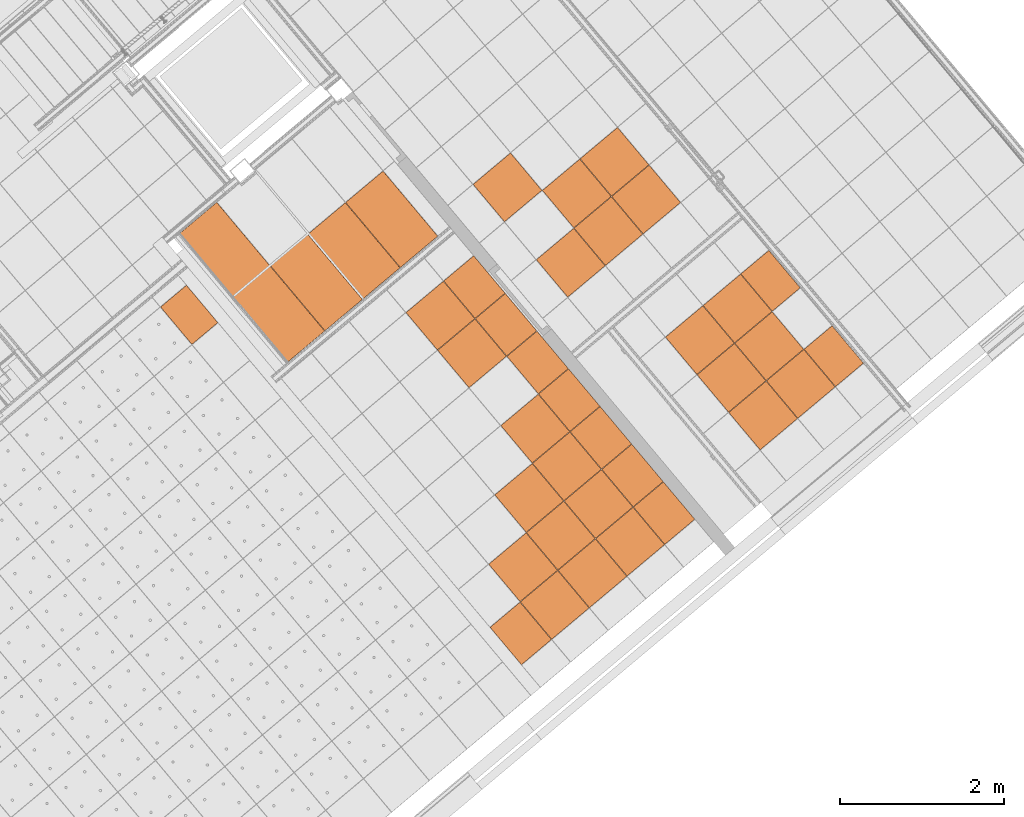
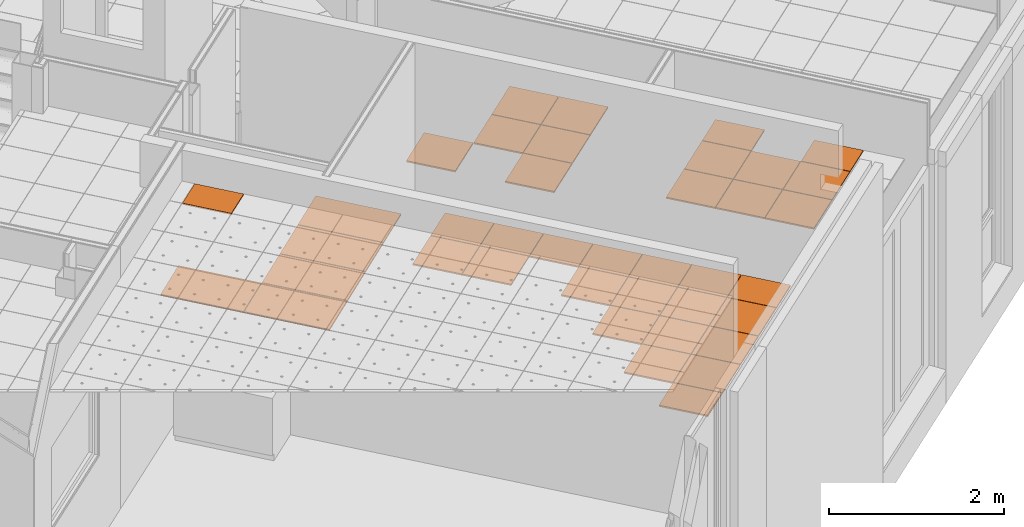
# One storey, part 194 of 338: 39 proxies, 5 elements without a shape of their own.
"""IFC2X3 building model written with IfcOpenShell, lengths in millimetres."""

from ifc_helpers import new_model, entity, si_unit, converted_unit, derived_unit, money_unit, direction, frame, origin_with_axes, place, context, subcontext, project, spatial, faceted_brep, source, transform, mapped, material, type_object, type_shapes, element, aggregate, save


model = new_model("IFC2X3")

# Units and contexts
model_context = context("Model", 3, precision=0.01, world=origin_with_axes(), true_north=direction((0.0, 1.0)))
plan_context = context("Plan", 3, precision=0.01, world=origin_with_axes(), true_north=direction((0.0, 1.0)))
body_context = subcontext(model_context, "Body", "Model", "MODEL_VIEW")
ifc_project = project(units=[si_unit("LENGTHUNIT", "METRE", prefix="MILLI"), si_unit("AREAUNIT", "SQUARE_METRE"), si_unit("VOLUMEUNIT", "CUBIC_METRE"), converted_unit("PLANEANGLEUNIT", "DEGREE", entity("IfcPlaneAngleMeasure", 0.0174532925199), si_unit("PLANEANGLEUNIT", "RADIAN"), dimensions=[0, 0, 0, 0, 0, 0, 0]), money_unit("EUR"), converted_unit("TIMEUNIT", "Year", entity("IfcTimeMeasure", 31556926.0), si_unit("TIMEUNIT", "SECOND"), dimensions=[0, 0, 1, 0, 0, 0, 0]), si_unit("MASSUNIT", "GRAM", prefix="KILO"), si_unit("THERMODYNAMICTEMPERATUREUNIT", "DEGREE_CELSIUS"), si_unit("LUMINOUSINTENSITYUNIT", "LUMEN"), si_unit("ENERGYUNIT", "JOULE", prefix="MEGA"), derived_unit("THERMALCONDUCTANCEUNIT", [(si_unit("POWERUNIT", "WATT"), 1), (si_unit("LENGTHUNIT", "METRE"), -1), (si_unit("THERMODYNAMICTEMPERATUREUNIT", "KELVIN"), -1)]), derived_unit("SPECIFICHEATCAPACITYUNIT", [(si_unit("ENERGYUNIT", "JOULE"), 1), (si_unit("MASSUNIT", "GRAM", prefix="KILO"), -1), (si_unit("THERMODYNAMICTEMPERATUREUNIT", "KELVIN"), -1)]), derived_unit("MASSDENSITYUNIT", [(si_unit("MASSUNIT", "GRAM", prefix="KILO"), 1), (si_unit("VOLUMEUNIT", "CUBIC_METRE"), -1)])], contexts=[model_context, plan_context])

# Site, building, storey
site_placement = place(None, origin_with_axes())
site = spatial("IfcSite", under=ifc_project, at=site_placement, Name="Fortuinstraat Woensdrecht", CompositionType="ELEMENT")
building_placement = place(site_placement, origin_with_axes())
building = spatial("IfcBuilding", under=site, at=building_placement, Name="IKC Fortuna", CompositionType="ELEMENT")
storey_placement = place(building_placement, origin_with_axes())
storey = spatial("IfcBuildingStorey", under=building, at=storey_placement, Name="00 begane grond", CompositionType="ELEMENT", Elevation=0.0)

# Covering, proxies
covering_type = type_object("IfcCoveringType", Name="Curtain Wall Type", PredefinedType="CEILING")
covering_1_placement = place(storey_placement, frame((23826.4460301, -4357.43121765, 2810.0), z_axis=(0.0, 0.0, 1.0), x_axis=(1.0, 0.0, 0.0)))
covering_1 = element("IfcCovering", 1, at=covering_1_placement, inside=storey, type_object=covering_type, Name="45_Plafondafwerking_P02", PredefinedType="CEILING")
ifc_material = material(Name="Gipsplaat")
building_element_proxy_type_1 = type_object("IfcBuildingElementProxyType", Name="Distinct Panel 600 x 600 x 20", PredefinedType="NOTDEFINED")
shared_shape_1 = source(origin_with_axes(), body_context, "Body", "Brep", [
    faceted_brep([(2.49999999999, 2.5, -10.0), (597.5, 2.49999999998, -10.0), (597.5, 2.49999999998, 10.0), (2.49999999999, 2.5, 10.0), (2.50000000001, 597.5, -10.0), (597.5, 597.5, -10.0), (597.5, 597.5, 10.0), (2.50000000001, 597.5, 10.0)], [[[0, 1, 2, 3]], [[0, 4, 5, 1]], [[1, 5, 6, 2]], [[3, 2, 6, 7]], [[4, 0, 3, 7]], [[5, 4, 7, 6]]]),
])
proxy_1_placement = place(covering_1_placement, frame((562.501063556, 2038.48375918, 0.0), z_axis=(0.0, 0.0, 1.0), x_axis=(1.0, 0.0, 0.0)))
proxy_1 = element("IfcBuildingElementProxy", 2, at=proxy_1_placement, type_object=building_element_proxy_type_1, material=ifc_material, Name="__Panel-D", context=body_context, shape_type="MappedRepresentation", body=[
    mapped(shared_shape_1, transform((36.9769427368, 422.649625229, 0.0), x_axis=(-0.766044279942, -0.642787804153, 0.0), y_axis=(0.642787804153, -0.766044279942, 0.0), z_axis=(0.0, 0.0, 1.0))),
])
proxy_2_placement = place(covering_1_placement, frame((1571.61134008, -1030.99444563, 0.0), z_axis=(0.0, 0.0, 1.0), x_axis=(1.0, 0.0, 0.0)))
proxy_2 = element("IfcBuildingElementProxy", 3, at=proxy_2_placement, type_object=building_element_proxy_type_1, material=ifc_material, Name="__Panel-D", context=body_context, shape_type="MappedRepresentation", body=[
    mapped(shared_shape_1, transform((36.9769427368, 422.649625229, 0.0), x_axis=(-0.766044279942, -0.642787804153, 0.0), y_axis=(0.642787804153, -0.766044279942, 0.0), z_axis=(0.0, 0.0, 1.0))),
])
proxy_3_placement = place(covering_1_placement, frame((1957.28402258, -1490.62101359, 0.0), z_axis=(0.0, 0.0, 1.0), x_axis=(1.0, 0.0, 0.0)))
proxy_3 = element("IfcBuildingElementProxy", 4, at=proxy_3_placement, type_object=building_element_proxy_type_1, material=ifc_material, Name="__Panel-D", context=body_context, shape_type="MappedRepresentation", body=[
    mapped(shared_shape_1, transform((36.9769427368, 422.649625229, 0.0), x_axis=(-0.766044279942, -0.642787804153, 0.0), y_axis=(0.642787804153, -0.766044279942, 0.0), z_axis=(0.0, 0.0, 1.0))),
])
proxy_4_placement = place(covering_1_placement, frame((2416.91059054, -1104.9483311, 0.0), z_axis=(0.0, 0.0, 1.0), x_axis=(1.0, 0.0, 0.0)))
proxy_4 = element("IfcBuildingElementProxy", 5, at=proxy_4_placement, type_object=building_element_proxy_type_1, material=ifc_material, Name="__Panel-D", context=body_context, shape_type="MappedRepresentation", body=[
    mapped(shared_shape_1, transform((36.9769427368, 422.649625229, 0.0), x_axis=(-0.766044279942, -0.642787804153, 0.0), y_axis=(0.642787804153, -0.766044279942, 0.0), z_axis=(0.0, 0.0, 1.0))),
])
proxy_5_placement = place(covering_1_placement, frame((2031.23790805, -645.321763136, 0.0), z_axis=(0.0, 0.0, 1.0), x_axis=(1.0, 0.0, 0.0)))
proxy_5 = element("IfcBuildingElementProxy", 6, at=proxy_5_placement, type_object=building_element_proxy_type_1, material=ifc_material, Name="__Panel-D", context=body_context, shape_type="MappedRepresentation", body=[
    mapped(shared_shape_1, transform((36.9769427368, 422.649625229, 0.0), x_axis=(-0.766044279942, -0.642787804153, 0.0), y_axis=(0.642787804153, -0.766044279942, 0.0), z_axis=(0.0, 0.0, 1.0))),
])
proxy_6_placement = place(covering_1_placement, frame((1645.56522556, -185.69519517, 0.0), z_axis=(0.0, 0.0, 1.0), x_axis=(1.0, 0.0, 0.0)))
proxy_6 = element("IfcBuildingElementProxy", 7, at=proxy_6_placement, type_object=building_element_proxy_type_1, material=ifc_material, Name="__Panel-D", context=body_context, shape_type="MappedRepresentation", body=[
    mapped(shared_shape_1, transform((36.9769427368, 422.649625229, 0.0), x_axis=(-0.766044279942, -0.642787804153, 0.0), y_axis=(0.642787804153, -0.766044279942, 0.0), z_axis=(0.0, 0.0, 1.0))),
])
proxy_7_placement = place(covering_1_placement, frame((1719.51911103, 659.604055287, 0.0), z_axis=(0.0, 0.0, 1.0), x_axis=(1.0, 0.0, 0.0)))
proxy_7 = element("IfcBuildingElementProxy", 8, at=proxy_7_placement, type_object=building_element_proxy_type_1, material=ifc_material, Name="__Panel-D", context=body_context, shape_type="MappedRepresentation", body=[
    mapped(shared_shape_1, transform((36.9769427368, 422.649625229, 0.0), x_axis=(-0.766044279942, -0.642787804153, 0.0), y_axis=(0.642787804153, -0.766044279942, 0.0), z_axis=(0.0, 0.0, 1.0))),
])
proxy_8_placement = place(covering_1_placement, frame((2105.19179352, 199.977487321, 0.0), z_axis=(0.0, 0.0, 1.0), x_axis=(1.0, 0.0, 0.0)))
proxy_8 = element("IfcBuildingElementProxy", 9, at=proxy_8_placement, type_object=building_element_proxy_type_1, material=ifc_material, Name="__Panel-D", context=body_context, shape_type="MappedRepresentation", body=[
    mapped(shared_shape_1, transform((36.9769427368, 422.649625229, 0.0), x_axis=(-0.766044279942, -0.642787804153, 0.0), y_axis=(0.642787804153, -0.766044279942, 0.0), z_axis=(0.0, 0.0, 1.0))),
])
proxy_9_placement = place(covering_1_placement, frame((2490.86447602, -259.649080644, 0.0), z_axis=(0.0, 0.0, 1.0), x_axis=(1.0, 0.0, 0.0)))
proxy_9 = element("IfcBuildingElementProxy", 10, at=proxy_9_placement, type_object=building_element_proxy_type_1, material=ifc_material, Name="__Panel-D", context=body_context, shape_type="MappedRepresentation", body=[
    mapped(shared_shape_1, transform((36.9769427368, 422.649625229, 0.0), x_axis=(-0.766044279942, -0.642787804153, 0.0), y_axis=(0.642787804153, -0.766044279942, 0.0), z_axis=(0.0, 0.0, 1.0))),
])
proxy_10_placement = place(covering_1_placement, frame((2876.53715851, -719.275648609, 0.0), z_axis=(0.0, 0.0, 1.0), x_axis=(1.0, 0.0, 0.0)))
proxy_10 = element("IfcBuildingElementProxy", 11, at=proxy_10_placement, type_object=building_element_proxy_type_1, material=ifc_material, Name="__Panel-D", context=body_context, shape_type="MappedRepresentation", body=[
    mapped(shared_shape_1, transform((36.9769427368, 422.649625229, 0.0), x_axis=(-0.766044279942, -0.642787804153, 0.0), y_axis=(0.642787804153, -0.766044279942, 0.0), z_axis=(0.0, 0.0, 1.0))),
])
shared_shape_2 = source(origin_with_axes(), body_context, "Body", "Brep", [
    faceted_brep([(2.5000069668, 2.4999963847, -10.0), (597.499995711, 2.50000275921, -10.0), (597.499995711, 2.50000275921, 10.0), (2.5000069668, 2.4999963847, 10.0), (2.50000214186, 597.499967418, -10.0), (597.499990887, 597.499973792, -10.0), (597.499990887, 597.499973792, 10.0), (2.50000214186, 597.499967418, 10.0)], [[[0, 1, 2, 3]], [[0, 4, 5, 1]], [[1, 5, 6, 2]], [[3, 2, 6, 7]], [[4, 0, 3, 7]], [[5, 4, 7, 6]]]),
])
proxy_11_placement = place(covering_1_placement, frame((948.173746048, 1578.85719122, 0.0), z_axis=(0.0, 0.0, 1.0), x_axis=(1.0, 0.0, 0.0)))
proxy_11 = element("IfcBuildingElementProxy", 12, at=proxy_11_placement, type_object=building_element_proxy_type_1, material=ifc_material, Name="__Panel-D", context=body_context, shape_type="MappedRepresentation", body=[
    mapped(shared_shape_2, transform((36.9769427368, 422.649625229, 0.0), x_axis=(-0.766044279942, -0.642787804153, 0.0), y_axis=(0.642787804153, -0.766044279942, 0.0), z_axis=(0.0, 0.0, 1.0))),
])

covering_2_placement = place(storey_placement, frame((27661.2988988, -1812.1109843, 2810.0), z_axis=(0.0, 0.0, 1.0), x_axis=(1.0, 0.0, 0.0)))
covering_2 = element("IfcCovering", 13, at=covering_2_placement, inside=storey, type_object=covering_type, Name="45_Plafondafwerking_P02 gec", PredefinedType="CEILING")
shared_shape_3 = source(origin_with_axes(), body_context, "Body", "Brep", [
    faceted_brep([(-597.499994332, 2.50000201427, -10.0), (-597.499994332, 2.50000201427, 10.0), (-597.499997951, 597.499994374, 10.0), (-597.499997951, 597.499994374, -10.0), (-2.50001005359, 2.49999600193, -10.0), (-2.50001005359, 2.49999600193, 10.0), (-2.49999596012, 597.499989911, 10.0), (-2.49999596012, 597.499989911, -10.0)], [[[0, 1, 2, 3]], [[4, 5, 1, 0]], [[1, 5, 6, 2]], [[3, 2, 6, 7]], [[0, 3, 7, 4]], [[7, 6, 5, 4]]]),
])
proxy_12_placement = place(covering_2_placement, frame((352.56957346, -420.175925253, 0.0), z_axis=(0.0, 0.0, 1.0), x_axis=(1.0, 0.0, 0.0)))
proxy_12 = element("IfcBuildingElementProxy", 14, at=proxy_12_placement, type_object=building_element_proxy_type_1, material=ifc_material, Name="__Panel-D", context=body_context, shape_type="MappedRepresentation", body=[
    mapped(shared_shape_3, transform((-422.649621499, 36.9769853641, 0.0), x_axis=(-0.766044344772, -0.642787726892, 0.0), y_axis=(0.642787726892, -0.766044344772, 0.0), z_axis=(0.0, 0.0, 1.0))),
])
proxy_13_placement = place(covering_2_placement, frame((664.288238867, -1725.10177511, 0.0), z_axis=(0.0, 0.0, 1.0), x_axis=(1.0, 0.0, 0.0)))
proxy_13 = element("IfcBuildingElementProxy", 15, at=proxy_13_placement, type_object=building_element_proxy_type_1, material=ifc_material, Name="__Panel-D", context=body_context, shape_type="MappedRepresentation", body=[
    mapped(shared_shape_3, transform((-422.649621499, 36.9769853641, 0.0), x_axis=(-0.766044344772, -0.642787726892, 0.0), y_axis=(0.642787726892, -0.766044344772, 0.0), z_axis=(0.0, 0.0, 1.0))),
])
proxy_14_placement = place(covering_2_placement, frame((1123.91484573, -1339.42913898, 0.0), z_axis=(0.0, 0.0, 1.0), x_axis=(1.0, 0.0, 0.0)))
proxy_14 = element("IfcBuildingElementProxy", 16, at=proxy_14_placement, type_object=building_element_proxy_type_1, material=ifc_material, Name="__Panel-D", context=body_context, shape_type="MappedRepresentation", body=[
    mapped(shared_shape_3, transform((-422.649621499, 36.9769853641, 0.0), x_axis=(-0.766044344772, -0.642787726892, 0.0), y_axis=(0.642787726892, -0.766044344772, 0.0), z_axis=(0.0, 0.0, 1.0))),
])
shared_shape_4 = source(origin_with_axes(), body_context, "Body", "Brep", [
    faceted_brep([(-597.500003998, 2.50001005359, -10.0), (-597.500003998, 2.50001005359, 10.0), (-597.499997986, 597.499994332, 10.0), (-597.499997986, 597.499994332, -10.0), (-2.50001008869, 2.4999959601, -10.0), (-2.50001008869, 2.4999959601, 10.0), (-2.50000562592, 597.499997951, 10.0), (-2.50000562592, 597.499997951, -10.0)], [[[0, 1, 2, 3]], [[4, 5, 1, 0]], [[1, 5, 6, 2]], [[3, 2, 6, 7]], [[0, 3, 7, 4]], [[7, 6, 5, 4]]]),
])
proxy_15_placement = place(covering_2_placement, frame((-107.057033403, -805.848561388, 0.0), z_axis=(0.0, 0.0, 1.0), x_axis=(1.0, 0.0, 0.0)))
proxy_15 = element("IfcBuildingElementProxy", 17, at=proxy_15_placement, type_object=building_element_proxy_type_1, material=ifc_material, Name="__Panel-D", context=body_context, shape_type="MappedRepresentation", body=[
    mapped(shared_shape_4, transform((-422.649621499, 36.9769853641, 0.0), x_axis=(-0.766044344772, -0.642787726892, 0.0), y_axis=(0.642787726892, -0.766044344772, 0.0), z_axis=(0.0, 0.0, 1.0))),
])
proxy_16_placement = place(covering_2_placement, frame((738.242209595, -879.802532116, 0.0), z_axis=(0.0, 0.0, 1.0), x_axis=(1.0, 0.0, 0.0)))
proxy_16 = element("IfcBuildingElementProxy", 18, at=proxy_16_placement, type_object=building_element_proxy_type_1, material=ifc_material, Name="__Panel-D", context=body_context, shape_type="MappedRepresentation", body=[
    mapped(shared_shape_4, transform((-422.649621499, 36.9769853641, 0.0), x_axis=(-0.766044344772, -0.642787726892, 0.0), y_axis=(0.642787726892, -0.766044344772, 0.0), z_axis=(0.0, 0.0, 1.0))),
])
proxy_17_placement = place(covering_2_placement, frame((278.615602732, -1265.47516825, 0.0), z_axis=(0.0, 0.0, 1.0), x_axis=(1.0, 0.0, 0.0)))
proxy_17 = element("IfcBuildingElementProxy", 19, at=proxy_17_placement, type_object=building_element_proxy_type_1, material=ifc_material, Name="__Panel-D", context=body_context, shape_type="MappedRepresentation", body=[
    mapped(shared_shape_4, transform((-422.649621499, 36.9769853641, 0.0), x_axis=(-0.766044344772, -0.642787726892, 0.0), y_axis=(0.642787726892, -0.766044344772, 0.0), z_axis=(0.0, 0.0, 1.0))),
])
building_element_proxy_type_2 = type_object("IfcBuildingElementProxyType", Name="Distinct Panel 450 x 600 x 20", PredefinedType="NOTDEFINED")
shared_shape_5 = source(origin_with_axes(), body_context, "Body", "Brep", [
    faceted_brep([(-447.481816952, 2.50000296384, -10.0), (-447.481816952, 2.50000296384, 10.0), (-447.481794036, 597.499998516, 10.0), (-447.481794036, 597.499998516, -10.0), (-2.49998981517, 2.50000053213, -10.0), (-2.49998981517, 2.50000053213, 10.0), (-2.4999982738, 597.499993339, 10.0), (-2.4999982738, 597.499993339, -10.0)], [[[0, 1, 2, 3]], [[4, 5, 1, 0]], [[1, 5, 6, 2]], [[3, 2, 6, 7]], [[0, 3, 7, 4]], [[7, 6, 5, 4]]]),
])
type_shapes(building_element_proxy_type_2, [shared_shape_5])
proxy_18_placement = place(covering_2_placement, frame((1526.08115822, -1001.97142964, 0.0), z_axis=(0.0, 0.0, 1.0), x_axis=(1.0, 0.0, 0.0)))
proxy_18 = element("IfcBuildingElementProxy", 20, at=proxy_18_placement, type_object=building_element_proxy_type_2, material=ifc_material, Name="__Panel-D", context=body_context, shape_type="MappedRepresentation", body=[
    mapped(shared_shape_5, transform((-365.189327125, 85.1919121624, 0.0), x_axis=(-0.766044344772, -0.642787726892, 0.0), y_axis=(0.642787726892, -0.766044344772, 0.0), z_axis=(0.0, 0.0, 1.0))),
])
proxy_19_placement = place(covering_2_placement, frame((754.735890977, -82.7182116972, 0.0), z_axis=(0.0, 0.0, 1.0), x_axis=(1.0, 0.0, 0.0)))
proxy_19 = element("IfcBuildingElementProxy", 21, at=proxy_19_placement, type_object=building_element_proxy_type_2, material=ifc_material, Name="__Panel-D", context=body_context, shape_type="MappedRepresentation", body=[
    mapped(shared_shape_5, transform((-365.189332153, 85.1919079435, 0.0), x_axis=(-0.766044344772, -0.642787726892, 0.0), y_axis=(0.642787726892, -0.766044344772, 0.0), z_axis=(0.0, 0.0, 1.0))),
])
aggregate(covering_2, [proxy_12, proxy_15, proxy_16, proxy_17, proxy_18, proxy_13, proxy_14, proxy_19])

covering_3_placement = place(storey_placement, frame((26804.4884552, -1724.43837499, 3010.0), z_axis=(0.0, 0.0, 1.0), x_axis=(1.0, 0.0, 0.0)))
covering_3 = element("IfcCovering", 22, at=covering_3_placement, inside=storey, type_object=covering_type, Name="45_Plafondafwerking_P04", PredefinedType="CEILING")
shared_shape_6 = source(origin_with_axes(), body_context, "Body", "Brep", [
    faceted_brep([(597.499991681, 597.50000021, -10.0), (2.49999975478, 597.499991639, -10.0), (2.49999975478, 597.499991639, 10.0), (597.499991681, 597.50000021, 10.0), (597.499992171, 2.49999865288, -10.0), (2.4999986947, 2.50000779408, -10.0), (2.4999986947, 2.50000779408, 10.0), (597.499992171, 2.49999865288, 10.0)], [[[0, 1, 2, 3]], [[0, 4, 5, 1]], [[1, 5, 6, 2]], [[3, 2, 6, 7]], [[4, 0, 3, 7]], [[5, 4, 7, 6]]]),
])
proxy_20_placement = place(covering_3_placement, frame((-366.008198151, 436.191720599, 0.0), z_axis=(0.0, 0.0, 1.0), x_axis=(1.0, 0.0, 0.0)))
proxy_20 = element("IfcBuildingElementProxy", 23, at=proxy_20_placement, type_object=building_element_proxy_type_1, material=ifc_material, Name="__Panel-D", context=body_context, shape_type="MappedRepresentation", body=[
    mapped(shared_shape_6, transform((-36.9771146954, -422.649610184, 0.0), x_axis=(0.766044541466, 0.642787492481, 0.0), y_axis=(-0.642787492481, 0.766044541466, 0.0), z_axis=(0.0, 0.0, 1.0))),
])
proxy_21_placement = place(covering_3_placement, frame((-292.05396876, 1281.49094097, 0.0), z_axis=(0.0, 0.0, 1.0), x_axis=(1.0, 0.0, 0.0)))
proxy_21 = element("IfcBuildingElementProxy", 24, at=proxy_21_placement, type_object=building_element_proxy_type_1, material=ifc_material, Name="__Panel-D", context=body_context, shape_type="MappedRepresentation", body=[
    mapped(shared_shape_6, transform((-36.9771146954, -422.649610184, 0.0), x_axis=(0.766044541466, 0.642787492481, 0.0), y_axis=(-0.642787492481, 0.766044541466, 0.0), z_axis=(0.0, 0.0, 1.0))),
])
proxy_22_placement = place(covering_3_placement, frame((-751.680693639, 895.818445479, 0.0), z_axis=(0.0, 0.0, 1.0), x_axis=(1.0, 0.0, 0.0)))
proxy_22 = element("IfcBuildingElementProxy", 25, at=proxy_22_placement, type_object=building_element_proxy_type_1, material=ifc_material, Name="__Panel-D", context=body_context, shape_type="MappedRepresentation", body=[
    mapped(shared_shape_6, transform((-36.9771146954, -422.649610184, 0.0), x_axis=(0.766044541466, 0.642787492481, 0.0), y_axis=(-0.642787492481, 0.766044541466, 0.0), z_axis=(0.0, 0.0, 1.0))),
])
shared_shape_7 = source(origin_with_axes(), body_context, "Body", "Brep", [
    faceted_brep([(597.49999164, 597.500000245, -10.0), (2.50000779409, 597.500001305, -10.0), (2.50000779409, 597.500001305, 10.0), (597.49999164, 597.500000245, 10.0), (597.50000021, 2.50000831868, -10.0), (2.49999865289, 2.50000782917, -10.0), (2.49999865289, 2.50000782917, 10.0), (597.50000021, 2.50000831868, 10.0)], [[[0, 1, 2, 3]], [[0, 4, 5, 1]], [[1, 5, 6, 2]], [[3, 2, 6, 7]], [[4, 0, 3, 7]], [[5, 4, 7, 6]]]),
])
type_shapes(building_element_proxy_type_1, [shared_shape_1, shared_shape_2, shared_shape_3, shared_shape_4, shared_shape_6, shared_shape_7])
proxy_23_placement = place(covering_3_placement, frame((93.6185267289, 821.864216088, 0.0), z_axis=(0.0, 0.0, 1.0), x_axis=(1.0, 0.0, 0.0)))
proxy_23 = element("IfcBuildingElementProxy", 26, at=proxy_23_placement, type_object=building_element_proxy_type_1, material=ifc_material, Name="__Panel-D", context=body_context, shape_type="MappedRepresentation", body=[
    mapped(shared_shape_7, transform((-36.9771146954, -422.649610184, 0.0), x_axis=(0.766044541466, 0.642787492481, 0.0), y_axis=(-0.642787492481, 0.766044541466, 0.0), z_axis=(0.0, 0.0, 1.0))),
])
proxy_24_placement = place(covering_3_placement, frame((-825.63492303, 50.5192251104, 0.0), z_axis=(0.0, 0.0, 1.0), x_axis=(1.0, 0.0, 0.0)))
proxy_24 = element("IfcBuildingElementProxy", 27, at=proxy_24_placement, type_object=building_element_proxy_type_1, material=ifc_material, Name="__Panel-D", context=body_context, shape_type="MappedRepresentation", body=[
    mapped(shared_shape_7, transform((-36.9771146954, -422.649610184, 0.0), x_axis=(0.766044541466, 0.642787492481, 0.0), y_axis=(-0.642787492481, 0.766044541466, 0.0), z_axis=(0.0, 0.0, 1.0))),
])
proxy_25_placement = place(covering_3_placement, frame((-1596.97991401, 969.772674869, 0.0), z_axis=(0.0, 0.0, 1.0), x_axis=(1.0, 0.0, 0.0)))
proxy_25 = element("IfcBuildingElementProxy", 28, at=proxy_25_placement, type_object=building_element_proxy_type_1, material=ifc_material, Name="__Panel-D", context=body_context, shape_type="MappedRepresentation", body=[
    mapped(shared_shape_7, transform((-36.9771146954, -422.649610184, 0.0), x_axis=(0.766044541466, 0.642787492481, 0.0), y_axis=(-0.642787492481, 0.766044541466, 0.0), z_axis=(0.0, 0.0, 1.0))),
])
aggregate(covering_3, [proxy_23, proxy_20, proxy_21, proxy_24, proxy_22, proxy_25])

covering_4_placement = place(storey_placement, frame((21527.1932838, -1706.9023883, 2770.0), z_axis=(0.0, 0.0, 1.0), x_axis=(1.0, 0.0, 0.0)))
covering_4 = element("IfcCovering", 29, at=covering_4_placement, inside=storey, type_object=covering_type, Name="45_Plafondafwerking_P02a", PredefinedType="CEILING")
building_element_proxy_type_3 = type_object("IfcBuildingElementProxyType", Name="Distinct Panel 600 x 1012 x 20", PredefinedType="NOTDEFINED")
shared_shape_8 = source(origin_with_axes(), body_context, "Body", "Brep", [
    faceted_brep([(-597.499991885, 190.541254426, -10.0), (-597.499991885, 190.541254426, 10.0), (-597.500005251, 1197.49983566, 10.0), (-597.500005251, 1197.49983566, -10.0), (-2.49998992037, 190.541449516, -10.0), (-2.49998992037, 190.541449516, 10.0), (-2.49999947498, 1197.49984716, 10.0), (-2.49999947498, 1197.49984716, -10.0)], [[[0, 1, 2, 3]], [[4, 5, 1, 0]], [[1, 5, 6, 2]], [[3, 2, 6, 7]], [[0, 3, 7, 4]], [[7, 6, 5, 4]]]),
])
type_shapes(building_element_proxy_type_3, [shared_shape_8])
proxy_26_placement = place(covering_4_placement, frame((229.169445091, 192.296160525, 4.85874721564), z_axis=(0.0, 0.0, 1.0), x_axis=(0.642787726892, -0.766044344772, 0.0)))
proxy_26 = element("IfcBuildingElementProxy", 30, at=proxy_26_placement, type_object=building_element_proxy_type_3, material=ifc_material, Name="__Panel-D", context=body_context, shape_type="MappedRepresentation", body=[
    mapped(shared_shape_8, transform((-694.020603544, -299.964442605, -4.61878473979), x_axis=(0.0, -0.999881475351, -0.0153959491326), y_axis=(1.0, 0.0, 0.0), z_axis=(0.0, -0.0153959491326, 0.999881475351))),
])
building_element_proxy_type_4 = type_object("IfcBuildingElementProxyType", Name="Distinct Panel 600 x 1042 x 20", PredefinedType="NOTDEFINED")
shared_shape_9 = source(origin_with_axes(), body_context, "Body", "Brep", [
    faceted_brep([(-597.500020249, 2.49998480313, -10.0), (-597.500020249, 2.49998480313, 10.0), (-597.499999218, 1039.20524779, 10.0), (-597.499999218, 1039.20524779, -10.0), (-2.49998630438, 2.50000266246, -10.0), (-2.49998630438, 2.50000266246, 10.0), (-2.49999923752, 1039.20522517, 10.0), (-2.49999923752, 1039.20522517, -10.0)], [[[0, 1, 2, 3]], [[4, 5, 1, 0]], [[1, 5, 6, 2]], [[3, 2, 6, 7]], [[0, 3, 7, 4]], [[7, 6, 5, 4]]]),
])
type_shapes(building_element_proxy_type_4, [shared_shape_9])
proxy_27_placement = place(covering_4_placement, frame((889.204362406, -594.302579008, 4.85874721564), z_axis=(0.0, 0.0, 1.0), x_axis=(0.642787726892, -0.766044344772, 0.0)))
proxy_27 = element("IfcBuildingElementProxy", 31, at=proxy_27_placement, type_object=building_element_proxy_type_4, material=ifc_material, Name="__Panel-D", context=body_context, shape_type="MappedRepresentation", body=[
    mapped(shared_shape_9, transform((-520.852615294, -299.964442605, -4.61878473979), x_axis=(0.0, -0.999881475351, -0.0153959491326), y_axis=(1.0, 0.0, 0.0), z_axis=(0.0, -0.0153959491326, 0.999881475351))),
])
proxy_28_placement = place(covering_4_placement, frame((1348.77649219, -208.675654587, 14.0963166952), z_axis=(0.0, 0.0, 1.0), x_axis=(0.642787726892, -0.766044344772, 0.0)))
proxy_28 = element("IfcBuildingElementProxy", 32, at=proxy_28_placement, type_object=building_element_proxy_type_4, material=ifc_material, Name="__Panel-D", context=body_context, shape_type="MappedRepresentation", body=[
    mapped(shared_shape_9, transform((-520.852615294, -299.964442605, -4.61878473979), x_axis=(0.0, -0.999881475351, -0.0153959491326), y_axis=(1.0, 0.0, 0.0), z_axis=(0.0, -0.0153959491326, 0.999881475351))),
])
proxy_29_placement = place(covering_4_placement, frame((1808.34862197, 176.951269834, 23.3338861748), z_axis=(0.0, 0.0, 1.0), x_axis=(0.642787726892, -0.766044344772, 0.0)))
proxy_29 = element("IfcBuildingElementProxy", 33, at=proxy_29_placement, type_object=building_element_proxy_type_4, material=ifc_material, Name="__Panel-D", context=body_context, shape_type="MappedRepresentation", body=[
    mapped(shared_shape_9, transform((-520.852615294, -299.964442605, -4.61878473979), x_axis=(0.0, -0.999881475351, -0.0153959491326), y_axis=(1.0, 0.0, 0.0), z_axis=(0.0, -0.0153959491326, 0.999881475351))),
])
proxy_30_placement = place(covering_4_placement, frame((2267.92075175, 562.578194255, 32.5714556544), z_axis=(0.0, 0.0, 1.0), x_axis=(0.642787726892, -0.766044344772, 0.0)))
proxy_30 = element("IfcBuildingElementProxy", 34, at=proxy_30_placement, type_object=building_element_proxy_type_4, material=ifc_material, Name="__Panel-D", context=body_context, shape_type="MappedRepresentation", body=[
    mapped(shared_shape_9, transform((-520.852615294, -299.964442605, -4.61878473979), x_axis=(0.0, -0.999881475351, -0.0153959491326), y_axis=(1.0, 0.0, 0.0), z_axis=(0.0, -0.0153959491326, 0.999881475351))),
])
aggregate(covering_4, [proxy_26, proxy_27, proxy_28, proxy_29, proxy_30])

# Covering, proxy
covering_5_placement = place(storey_placement, frame((19785.7448517, -11392.5753808, 4660.0), z_axis=(0.0, 0.0, 1.0), x_axis=(1.0, 0.0, 0.0)))
covering_5 = element("IfcCovering", 35, at=covering_5_placement, inside=storey, type_object=covering_type, Name="45_Plafondafwerking_P01", PredefinedType="CEILING")
building_element_proxy_type_5 = type_object("IfcBuildingElementProxyType", Name="417 x 600 x 20", PredefinedType="NOTDEFINED")
shared_shape_10 = source(origin_with_axes(), body_context, "Body", "Brep", [
    faceted_brep([(185.001207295, 2.50000606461, -10.0), (597.500001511, 2.50000135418, -10.0), (597.500001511, 2.50000135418, 10.0), (185.001207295, 2.50000606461, 10.0), (185.001212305, 597.499995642, -10.0), (597.500013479, 597.499999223, -10.0), (597.500013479, 597.499999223, 10.0), (185.001212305, 597.499995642, 10.0)], [[[0, 1, 2, 3]], [[0, 4, 5, 1]], [[1, 5, 6, 2]], [[3, 2, 6, 7]], [[4, 0, 3, 7]], [[5, 4, 7, 6]]]),
])
type_shapes(building_element_proxy_type_5, [shared_shape_10])
proxy_31_placement = place(covering_5_placement, frame((1539.07418266, 9083.09061082, 0.0), z_axis=(0.0, 0.0, 1.0), x_axis=(1.0, 0.0, 0.0)))
proxy_31 = element("IfcBuildingElementProxy", 36, at=proxy_31_placement, type_object=building_element_proxy_type_5, material=ifc_material, Name="__600x641 Rockfon Krios", context=body_context, shape_type="MappedRepresentation", body=[
    mapped(shared_shape_10, transform((106.878948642, 481.304402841, 0.0), x_axis=(-0.766044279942, -0.642787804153, 0.0), y_axis=(0.642787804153, -0.766044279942, 0.0), z_axis=(0.0, 0.0, 1.0))),
])
aggregate(covering_5, [proxy_31])

# Proxy
building_element_proxy_type_6 = type_object("IfcBuildingElementProxyType", Name="Distinct Panel 482 x 600 x 20", PredefinedType="NOTDEFINED")
shared_shape_11 = source(origin_with_axes(), body_context, "Body", "Brep", [
    faceted_brep([(2.49998944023, 2.49999814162, -10.0), (479.926448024, 2.49999305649, -10.0), (479.926448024, 2.49999305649, 10.0), (2.49998944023, 2.49999814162, 10.0), (2.49999269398, 597.499992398, -10.0), (479.926442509, 597.49999467, -10.0), (479.926442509, 597.49999467, 10.0), (2.49999269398, 597.499992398, 10.0)], [[[0, 1, 2, 3]], [[0, 4, 5, 1]], [[1, 5, 6, 2]], [[3, 2, 6, 7]], [[4, 0, 3, 7]], [[5, 4, 7, 6]]]),
])
proxy_32_placement = place(covering_1_placement, frame((1542.69072129, -1838.50627914, 0.0), z_axis=(0.0, 0.0, 1.0), x_axis=(1.0, 0.0, 0.0)))
proxy_32 = element("IfcBuildingElementProxy", 37, at=proxy_32_placement, type_object=building_element_proxy_type_6, material=ifc_material, Name="__Panel-D", context=body_context, shape_type="MappedRepresentation", body=[
    mapped(shared_shape_11, transform((-8.05632394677, 384.862208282, 0.0), x_axis=(-0.766044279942, -0.642787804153, 0.0), y_axis=(0.642787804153, -0.766044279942, 0.0), z_axis=(0.0, 0.0, 1.0))),
])

shared_shape_12 = source(origin_with_axes(), body_context, "Body", "Brep", [
    faceted_brep([(120.073637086, 2.49999565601, -10.0), (597.499995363, 2.50000105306, -10.0), (597.499995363, 2.50000105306, 10.0), (120.073637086, 2.49999565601, 10.0), (120.073636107, 597.499995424, -10.0), (597.500003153, 597.499993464, -10.0), (597.500003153, 597.499993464, 10.0), (120.073636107, 597.499995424, 10.0)], [[[0, 1, 2, 3]], [[0, 4, 5, 1]], [[1, 5, 6, 2]], [[3, 2, 6, 7]], [[4, 0, 3, 7]], [[5, 4, 7, 6]]]),
])
proxy_33_placement = place(covering_1_placement, frame((1748.43968811, 1467.1158538, 0.0), z_axis=(0.0, 0.0, 1.0), x_axis=(1.0, 0.0, 0.0)))
proxy_33 = element("IfcBuildingElementProxy", 38, at=proxy_33_placement, type_object=building_element_proxy_type_6, material=ifc_material, Name="__Panel-D", context=body_context, shape_type="MappedRepresentation", body=[
    mapped(shared_shape_12, transform((82.010251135, 460.437077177, 0.0), x_axis=(-0.766044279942, -0.642787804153, 0.0), y_axis=(0.642787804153, -0.766044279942, 0.0), z_axis=(0.0, 0.0, 1.0))),
])

proxy_34_placement = place(covering_1_placement, frame((2134.1123706, 1007.48928583, 0.0), z_axis=(0.0, 0.0, 1.0), x_axis=(1.0, 0.0, 0.0)))
proxy_34 = element("IfcBuildingElementProxy", 39, at=proxy_34_placement, type_object=building_element_proxy_type_6, material=ifc_material, Name="__Panel-D", context=body_context, shape_type="MappedRepresentation", body=[
    mapped(shared_shape_12, transform((82.010251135, 460.437077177, 0.0), x_axis=(-0.766044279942, -0.642787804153, 0.0), y_axis=(0.642787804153, -0.766044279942, 0.0), z_axis=(0.0, 0.0, 1.0))),
])

shared_shape_13 = source(origin_with_axes(), body_context, "Body", "Brep", [
    faceted_brep([(120.073628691, 2.50000739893, -10.0), (597.500002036, 2.49998931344, -10.0), (597.500002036, 2.49998931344, 10.0), (120.073628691, 2.50000739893, 10.0), (120.073645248, 597.499998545, -10.0), (597.500001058, 597.499995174, -10.0), (597.500001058, 597.499995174, 10.0), (120.073645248, 597.499998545, 10.0)], [[[0, 1, 2, 3]], [[0, 4, 5, 1]], [[1, 5, 6, 2]], [[3, 2, 6, 7]], [[4, 0, 3, 7]], [[5, 4, 7, 6]]]),
])
proxy_35_placement = place(covering_1_placement, frame((977.094325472, 2386.3689917, 0.0), z_axis=(0.0, 0.0, 1.0), x_axis=(1.0, 0.0, 0.0)))
proxy_35 = element("IfcBuildingElementProxy", 40, at=proxy_35_placement, type_object=building_element_proxy_type_6, material=ifc_material, Name="__Panel-D", context=body_context, shape_type="MappedRepresentation", body=[
    mapped(shared_shape_13, transform((82.0102487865, 460.437075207, 0.0), x_axis=(-0.766044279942, -0.642787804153, 0.0), y_axis=(0.642787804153, -0.766044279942, 0.0), z_axis=(0.0, 0.0, 1.0))),
])

proxy_36_placement = place(covering_1_placement, frame((2905.45773558, 88.2361498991, 0.0), z_axis=(0.0, 0.0, 1.0), x_axis=(1.0, 0.0, 0.0)))
proxy_36 = element("IfcBuildingElementProxy", 41, at=proxy_36_placement, type_object=building_element_proxy_type_6, material=ifc_material, Name="__Panel-D", context=body_context, shape_type="MappedRepresentation", body=[
    mapped(shared_shape_13, transform((82.010251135, 460.437077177, 0.0), x_axis=(-0.766044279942, -0.642787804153, 0.0), y_axis=(0.642787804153, -0.766044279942, 0.0), z_axis=(0.0, 0.0, 1.0))),
])

proxy_37_placement = place(covering_1_placement, frame((1362.76700562, 1926.74242176, 0.0), z_axis=(0.0, 0.0, 1.0), x_axis=(1.0, 0.0, 0.0)))
proxy_37 = element("IfcBuildingElementProxy", 42, at=proxy_37_placement, type_object=building_element_proxy_type_6, material=ifc_material, Name="__Panel-D", context=body_context, shape_type="MappedRepresentation", body=[
    mapped(shared_shape_13, transform((82.010251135, 460.437077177, 0.0), x_axis=(-0.766044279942, -0.642787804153, 0.0), y_axis=(0.642787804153, -0.766044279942, 0.0), z_axis=(0.0, 0.0, 1.0))),
])

shared_shape_14 = source(origin_with_axes(), body_context, "Body", "Brep", [
    faceted_brep([(120.073644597, 2.50000266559, -10.0), (597.500004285, 2.49999193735, -10.0), (597.500004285, 2.49999193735, 10.0), (120.073644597, 2.50000266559, 10.0), (120.073636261, 597.499993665, -10.0), (597.499994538, 597.499999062, -10.0), (597.499994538, 597.499999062, 10.0), (120.073636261, 597.499993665, 10.0)], [[[0, 1, 2, 3]], [[0, 4, 5, 1]], [[1, 5, 6, 2]], [[3, 2, 6, 7]], [[4, 0, 3, 7]], [[5, 4, 7, 6]]]),
])
type_shapes(building_element_proxy_type_6, [shared_shape_11, shared_shape_12, shared_shape_13, shared_shape_14])
proxy_38_placement = place(covering_1_placement, frame((3291.13041807, -371.390418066, 0.0), z_axis=(0.0, 0.0, 1.0), x_axis=(1.0, 0.0, 0.0)))
proxy_38 = element("IfcBuildingElementProxy", 43, at=proxy_38_placement, type_object=building_element_proxy_type_6, material=ifc_material, Name="__Panel-D", context=body_context, shape_type="MappedRepresentation", body=[
    mapped(shared_shape_14, transform((82.010251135, 460.437077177, 0.0), x_axis=(-0.766044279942, -0.642787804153, 0.0), y_axis=(0.642787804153, -0.766044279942, 0.0), z_axis=(0.0, 0.0, 1.0))),
])

proxy_39_placement = place(covering_1_placement, frame((2519.78505309, 547.862717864, 0.0), z_axis=(0.0, 0.0, 1.0), x_axis=(1.0, 0.0, 0.0)))
proxy_39 = element("IfcBuildingElementProxy", 44, at=proxy_39_placement, type_object=building_element_proxy_type_6, material=ifc_material, Name="__Panel-D", context=body_context, shape_type="MappedRepresentation", body=[
    mapped(shared_shape_14, transform((82.010251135, 460.437077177, 0.0), x_axis=(-0.766044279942, -0.642787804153, 0.0), y_axis=(0.642787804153, -0.766044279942, 0.0), z_axis=(0.0, 0.0, 1.0))),
])

aggregate(covering_1, [proxy_1, proxy_33, proxy_35, proxy_32, proxy_11, proxy_34, proxy_38, proxy_36, proxy_39, proxy_2, proxy_3, proxy_37, proxy_4, proxy_5, proxy_6, proxy_7, proxy_8, proxy_9, proxy_10])

save(model, "model.ifc")
